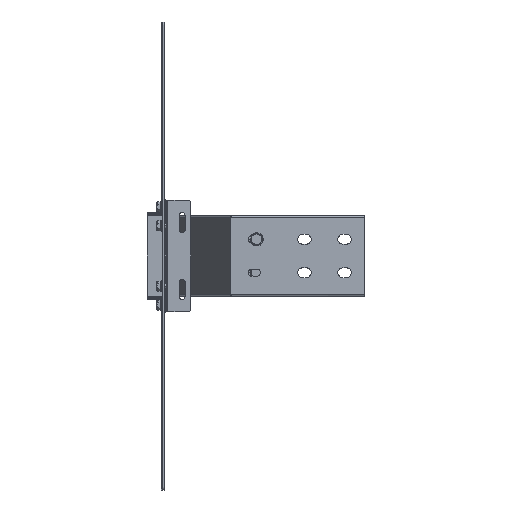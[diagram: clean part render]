
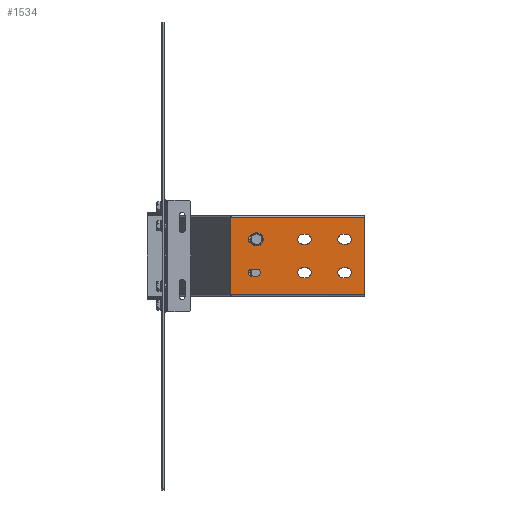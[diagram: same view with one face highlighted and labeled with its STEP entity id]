
A CAD part, front view. The second image highlights one B-rep face of the part: STEP entity #1534.
In plain terms, the highlighted planar face has unit normal (0, -1, 0).
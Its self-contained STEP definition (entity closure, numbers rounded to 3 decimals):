
#1290=AXIS2_PLACEMENT_3D('Circle Axis2P3D',#1288,#1289,$) ;
#1310=AXIS2_PLACEMENT_3D('Plane Axis2P3D',#1307,#1308,#1309) ;
#1348=AXIS2_PLACEMENT_3D('Circle Axis2P3D',#1346,#1347,$) ;
#1366=AXIS2_PLACEMENT_3D('Circle Axis2P3D',#1364,#1365,$) ;
#1382=AXIS2_PLACEMENT_3D('Circle Axis2P3D',#1380,#1381,$) ;
#1400=AXIS2_PLACEMENT_3D('Circle Axis2P3D',#1398,#1399,$) ;
#1416=AXIS2_PLACEMENT_3D('Circle Axis2P3D',#1414,#1415,$) ;
#1443=AXIS2_PLACEMENT_3D('Circle Axis2P3D',#1441,#1442,$) ;
#1457=AXIS2_PLACEMENT_3D('Circle Axis2P3D',#1455,#1456,$) ;
#1468=AXIS2_PLACEMENT_3D('Circle Axis2P3D',#1466,#1467,$) ;
#1484=AXIS2_PLACEMENT_3D('Circle Axis2P3D',#1482,#1483,$) ;
#1502=AXIS2_PLACEMENT_3D('Circle Axis2P3D',#1500,#1501,$) ;
#1518=AXIS2_PLACEMENT_3D('Circle Axis2P3D',#1516,#1517,$) ;
#1254=CARTESIAN_POINT('Vertex',(212.5,-216.75,32.5)) ;
#1257=CARTESIAN_POINT('Line Origine',(210.,-216.75,32.5)) ;
#1261=CARTESIAN_POINT('Vertex',(207.5,-216.75,32.5)) ;
#1288=CARTESIAN_POINT('Axis2P3D Location',(207.5,-216.75,25.)) ;
#1292=CARTESIAN_POINT('Vertex',(207.5,-216.75,17.5)) ;
#1307=CARTESIAN_POINT('Axis2P3D Location',(300.,-216.75,-58.25)) ;
#1312=CARTESIAN_POINT('Line Origine',(199.425,-216.75,-58.25)) ;
#1316=CARTESIAN_POINT('Vertex',(300.,-216.75,-58.25)) ;
#1318=CARTESIAN_POINT('Vertex',(98.849,-216.75,-58.25)) ;
#1321=CARTESIAN_POINT('Line Origine',(300.,-216.75,0.)) ;
#1325=CARTESIAN_POINT('Vertex',(300.,-216.75,58.25)) ;
#1328=CARTESIAN_POINT('Line Origine',(199.425,-216.75,58.25)) ;
#1332=CARTESIAN_POINT('Vertex',(98.849,-216.75,58.25)) ;
#1335=CARTESIAN_POINT('Line Origine',(98.849,-216.75,0.)) ;
#1346=CARTESIAN_POINT('Axis2P3D Location',(212.5,-216.75,25.)) ;
#1350=CARTESIAN_POINT('Vertex',(212.5,-216.75,17.5)) ;
#1353=CARTESIAN_POINT('Line Origine',(210.,-216.75,17.5)) ;
#1364=CARTESIAN_POINT('Axis2P3D Location',(272.5,-216.75,25.)) ;
#1368=CARTESIAN_POINT('Vertex',(272.5,-216.75,17.5)) ;
#1370=CARTESIAN_POINT('Vertex',(272.5,-216.75,32.5)) ;
#1373=CARTESIAN_POINT('Line Origine',(270.,-216.75,17.5)) ;
#1377=CARTESIAN_POINT('Vertex',(267.5,-216.75,17.5)) ;
#1380=CARTESIAN_POINT('Axis2P3D Location',(267.5,-216.75,25.)) ;
#1384=CARTESIAN_POINT('Vertex',(267.5,-216.75,32.5)) ;
#1387=CARTESIAN_POINT('Line Origine',(270.,-216.75,32.5)) ;
#1398=CARTESIAN_POINT('Axis2P3D Location',(207.5,-216.75,-25.)) ;
#1402=CARTESIAN_POINT('Vertex',(207.5,-216.75,-17.5)) ;
#1404=CARTESIAN_POINT('Vertex',(207.5,-216.75,-32.5)) ;
#1407=CARTESIAN_POINT('Line Origine',(210.,-216.75,-17.5)) ;
#1411=CARTESIAN_POINT('Vertex',(212.5,-216.75,-17.5)) ;
#1414=CARTESIAN_POINT('Axis2P3D Location',(212.5,-216.75,-25.)) ;
#1418=CARTESIAN_POINT('Vertex',(212.5,-216.75,-32.5)) ;
#1421=CARTESIAN_POINT('Line Origine',(210.,-216.75,-32.5)) ;
#1432=CARTESIAN_POINT('Line Origine',(270.,-216.75,-17.5)) ;
#1436=CARTESIAN_POINT('Vertex',(272.5,-216.75,-17.5)) ;
#1438=CARTESIAN_POINT('Vertex',(267.5,-216.75,-17.5)) ;
#1441=CARTESIAN_POINT('Axis2P3D Location',(272.5,-216.75,-25.)) ;
#1445=CARTESIAN_POINT('Vertex',(272.5,-216.75,-32.5)) ;
#1448=CARTESIAN_POINT('Line Origine',(270.,-216.75,-32.5)) ;
#1452=CARTESIAN_POINT('Vertex',(267.5,-216.75,-32.5)) ;
#1455=CARTESIAN_POINT('Axis2P3D Location',(267.5,-216.75,-25.)) ;
#1466=CARTESIAN_POINT('Axis2P3D Location',(138.5,-216.75,25.)) ;
#1470=CARTESIAN_POINT('Vertex',(138.5,-216.75,19.5)) ;
#1472=CARTESIAN_POINT('Vertex',(138.5,-216.75,30.5)) ;
#1475=CARTESIAN_POINT('Line Origine',(135.,-216.75,19.5)) ;
#1479=CARTESIAN_POINT('Vertex',(131.5,-216.75,19.5)) ;
#1482=CARTESIAN_POINT('Axis2P3D Location',(131.5,-216.75,25.)) ;
#1486=CARTESIAN_POINT('Vertex',(131.5,-216.75,30.5)) ;
#1489=CARTESIAN_POINT('Line Origine',(135.,-216.75,30.5)) ;
#1500=CARTESIAN_POINT('Axis2P3D Location',(131.5,-216.75,-25.)) ;
#1504=CARTESIAN_POINT('Vertex',(131.5,-216.75,-19.5)) ;
#1506=CARTESIAN_POINT('Vertex',(131.5,-216.75,-30.5)) ;
#1509=CARTESIAN_POINT('Line Origine',(135.,-216.75,-19.5)) ;
#1513=CARTESIAN_POINT('Vertex',(138.5,-216.75,-19.5)) ;
#1516=CARTESIAN_POINT('Axis2P3D Location',(138.5,-216.75,-25.)) ;
#1520=CARTESIAN_POINT('Vertex',(138.5,-216.75,-30.5)) ;
#1523=CARTESIAN_POINT('Line Origine',(135.,-216.75,-30.5)) ;
#1258=DIRECTION('Vector Direction',(1.,0.,0.)) ;
#1289=DIRECTION('Axis2P3D Direction',(0.,-1.,0.)) ;
#1308=DIRECTION('Axis2P3D Direction',(0.,-1.,0.)) ;
#1309=DIRECTION('Axis2P3D XDirection',(0.,0.,1.)) ;
#1313=DIRECTION('Vector Direction',(-1.,0.,0.)) ;
#1322=DIRECTION('Vector Direction',(0.,0.,1.)) ;
#1329=DIRECTION('Vector Direction',(-1.,0.,0.)) ;
#1336=DIRECTION('Vector Direction',(0.,0.,1.)) ;
#1347=DIRECTION('Axis2P3D Direction',(0.,-1.,0.)) ;
#1354=DIRECTION('Vector Direction',(-1.,0.,0.)) ;
#1365=DIRECTION('Axis2P3D Direction',(0.,-1.,0.)) ;
#1374=DIRECTION('Vector Direction',(1.,0.,0.)) ;
#1381=DIRECTION('Axis2P3D Direction',(0.,-1.,0.)) ;
#1388=DIRECTION('Vector Direction',(-1.,0.,0.)) ;
#1399=DIRECTION('Axis2P3D Direction',(0.,-1.,0.)) ;
#1408=DIRECTION('Vector Direction',(-1.,0.,0.)) ;
#1415=DIRECTION('Axis2P3D Direction',(0.,-1.,0.)) ;
#1422=DIRECTION('Vector Direction',(1.,0.,0.)) ;
#1433=DIRECTION('Vector Direction',(1.,0.,0.)) ;
#1442=DIRECTION('Axis2P3D Direction',(0.,-1.,0.)) ;
#1449=DIRECTION('Vector Direction',(-1.,0.,0.)) ;
#1456=DIRECTION('Axis2P3D Direction',(0.,-1.,0.)) ;
#1467=DIRECTION('Axis2P3D Direction',(0.,-1.,0.)) ;
#1476=DIRECTION('Vector Direction',(-1.,0.,0.)) ;
#1483=DIRECTION('Axis2P3D Direction',(0.,-1.,0.)) ;
#1490=DIRECTION('Vector Direction',(1.,0.,0.)) ;
#1501=DIRECTION('Axis2P3D Direction',(0.,-1.,0.)) ;
#1510=DIRECTION('Vector Direction',(-1.,0.,0.)) ;
#1517=DIRECTION('Axis2P3D Direction',(0.,-1.,0.)) ;
#1524=DIRECTION('Vector Direction',(1.,0.,0.)) ;
#1259=VECTOR('Line Direction',#1258,1.) ;
#1314=VECTOR('Line Direction',#1313,1.) ;
#1323=VECTOR('Line Direction',#1322,1.) ;
#1330=VECTOR('Line Direction',#1329,1.) ;
#1337=VECTOR('Line Direction',#1336,1.) ;
#1355=VECTOR('Line Direction',#1354,1.) ;
#1375=VECTOR('Line Direction',#1374,1.) ;
#1389=VECTOR('Line Direction',#1388,1.) ;
#1409=VECTOR('Line Direction',#1408,1.) ;
#1423=VECTOR('Line Direction',#1422,1.) ;
#1434=VECTOR('Line Direction',#1433,1.) ;
#1450=VECTOR('Line Direction',#1449,1.) ;
#1477=VECTOR('Line Direction',#1476,1.) ;
#1491=VECTOR('Line Direction',#1490,1.) ;
#1511=VECTOR('Line Direction',#1510,1.) ;
#1525=VECTOR('Line Direction',#1524,1.) ;
#1341=ORIENTED_EDGE('',*,*,#1320,.F.) ;
#1342=ORIENTED_EDGE('',*,*,#1327,.F.) ;
#1343=ORIENTED_EDGE('',*,*,#1334,.T.) ;
#1344=ORIENTED_EDGE('',*,*,#1339,.F.) ;
#1359=ORIENTED_EDGE('',*,*,#1352,.F.) ;
#1360=ORIENTED_EDGE('',*,*,#1357,.F.) ;
#1361=ORIENTED_EDGE('',*,*,#1294,.F.) ;
#1362=ORIENTED_EDGE('',*,*,#1263,.F.) ;
#1393=ORIENTED_EDGE('',*,*,#1372,.F.) ;
#1394=ORIENTED_EDGE('',*,*,#1379,.F.) ;
#1395=ORIENTED_EDGE('',*,*,#1386,.F.) ;
#1396=ORIENTED_EDGE('',*,*,#1391,.F.) ;
#1427=ORIENTED_EDGE('',*,*,#1406,.F.) ;
#1428=ORIENTED_EDGE('',*,*,#1413,.F.) ;
#1429=ORIENTED_EDGE('',*,*,#1420,.F.) ;
#1430=ORIENTED_EDGE('',*,*,#1425,.F.) ;
#1461=ORIENTED_EDGE('',*,*,#1440,.F.) ;
#1462=ORIENTED_EDGE('',*,*,#1447,.F.) ;
#1463=ORIENTED_EDGE('',*,*,#1454,.F.) ;
#1464=ORIENTED_EDGE('',*,*,#1459,.F.) ;
#1495=ORIENTED_EDGE('',*,*,#1474,.F.) ;
#1496=ORIENTED_EDGE('',*,*,#1481,.F.) ;
#1497=ORIENTED_EDGE('',*,*,#1488,.F.) ;
#1498=ORIENTED_EDGE('',*,*,#1493,.F.) ;
#1529=ORIENTED_EDGE('',*,*,#1508,.F.) ;
#1530=ORIENTED_EDGE('',*,*,#1515,.F.) ;
#1531=ORIENTED_EDGE('',*,*,#1522,.F.) ;
#1532=ORIENTED_EDGE('',*,*,#1527,.F.) ;
#1363=FACE_BOUND('',#1358,.T.) ;
#1397=FACE_BOUND('',#1392,.T.) ;
#1431=FACE_BOUND('',#1426,.T.) ;
#1465=FACE_BOUND('',#1460,.T.) ;
#1499=FACE_BOUND('',#1494,.T.) ;
#1533=FACE_BOUND('',#1528,.T.) ;
#1534=ADVANCED_FACE('N',(#1345,#1363,#1397,#1431,#1465,#1499,#1533),#1311,.T.) ;
#1291=CIRCLE('generated circle',#1290,7.5) ;
#1349=CIRCLE('generated circle',#1348,7.5) ;
#1367=CIRCLE('generated circle',#1366,7.5) ;
#1383=CIRCLE('generated circle',#1382,7.5) ;
#1401=CIRCLE('generated circle',#1400,7.5) ;
#1417=CIRCLE('generated circle',#1416,7.5) ;
#1444=CIRCLE('generated circle',#1443,7.5) ;
#1458=CIRCLE('generated circle',#1457,7.5) ;
#1469=CIRCLE('generated circle',#1468,5.5) ;
#1485=CIRCLE('generated circle',#1484,5.5) ;
#1503=CIRCLE('generated circle',#1502,5.5) ;
#1519=CIRCLE('generated circle',#1518,5.5) ;
#1263=EDGE_CURVE('',#1255,#1262,#1260,.F.) ;
#1294=EDGE_CURVE('',#1262,#1293,#1291,.T.) ;
#1320=EDGE_CURVE('',#1317,#1319,#1315,.T.) ;
#1327=EDGE_CURVE('',#1326,#1317,#1324,.F.) ;
#1334=EDGE_CURVE('',#1326,#1333,#1331,.T.) ;
#1339=EDGE_CURVE('',#1319,#1333,#1338,.T.) ;
#1352=EDGE_CURVE('',#1351,#1255,#1349,.T.) ;
#1357=EDGE_CURVE('',#1293,#1351,#1356,.F.) ;
#1372=EDGE_CURVE('',#1369,#1371,#1367,.T.) ;
#1379=EDGE_CURVE('',#1378,#1369,#1376,.T.) ;
#1386=EDGE_CURVE('',#1385,#1378,#1383,.T.) ;
#1391=EDGE_CURVE('',#1371,#1385,#1390,.T.) ;
#1406=EDGE_CURVE('',#1403,#1405,#1401,.T.) ;
#1413=EDGE_CURVE('',#1412,#1403,#1410,.T.) ;
#1420=EDGE_CURVE('',#1419,#1412,#1417,.T.) ;
#1425=EDGE_CURVE('',#1405,#1419,#1424,.T.) ;
#1440=EDGE_CURVE('',#1437,#1439,#1435,.F.) ;
#1447=EDGE_CURVE('',#1446,#1437,#1444,.T.) ;
#1454=EDGE_CURVE('',#1453,#1446,#1451,.F.) ;
#1459=EDGE_CURVE('',#1439,#1453,#1458,.T.) ;
#1474=EDGE_CURVE('',#1471,#1473,#1469,.T.) ;
#1481=EDGE_CURVE('',#1480,#1471,#1478,.F.) ;
#1488=EDGE_CURVE('',#1487,#1480,#1485,.T.) ;
#1493=EDGE_CURVE('',#1473,#1487,#1492,.F.) ;
#1508=EDGE_CURVE('',#1505,#1507,#1503,.T.) ;
#1515=EDGE_CURVE('',#1514,#1505,#1512,.T.) ;
#1522=EDGE_CURVE('',#1521,#1514,#1519,.T.) ;
#1527=EDGE_CURVE('',#1507,#1521,#1526,.T.) ;
#1340=EDGE_LOOP('',(#1341,#1342,#1343,#1344)) ;
#1358=EDGE_LOOP('',(#1359,#1360,#1361,#1362)) ;
#1392=EDGE_LOOP('',(#1393,#1394,#1395,#1396)) ;
#1426=EDGE_LOOP('',(#1427,#1428,#1429,#1430)) ;
#1460=EDGE_LOOP('',(#1461,#1462,#1463,#1464)) ;
#1494=EDGE_LOOP('',(#1495,#1496,#1497,#1498)) ;
#1528=EDGE_LOOP('',(#1529,#1530,#1531,#1532)) ;
#1345=FACE_OUTER_BOUND('',#1340,.T.) ;
#1260=LINE('Line',#1257,#1259) ;
#1315=LINE('Line',#1312,#1314) ;
#1324=LINE('Line',#1321,#1323) ;
#1331=LINE('Line',#1328,#1330) ;
#1338=LINE('Line',#1335,#1337) ;
#1356=LINE('Line',#1353,#1355) ;
#1376=LINE('Line',#1373,#1375) ;
#1390=LINE('Line',#1387,#1389) ;
#1410=LINE('Line',#1407,#1409) ;
#1424=LINE('Line',#1421,#1423) ;
#1435=LINE('Line',#1432,#1434) ;
#1451=LINE('Line',#1448,#1450) ;
#1478=LINE('Line',#1475,#1477) ;
#1492=LINE('Line',#1489,#1491) ;
#1512=LINE('Line',#1509,#1511) ;
#1526=LINE('Line',#1523,#1525) ;
#1311=PLANE('',#1310) ;
#1255=VERTEX_POINT('',#1254) ;
#1262=VERTEX_POINT('',#1261) ;
#1293=VERTEX_POINT('',#1292) ;
#1317=VERTEX_POINT('',#1316) ;
#1319=VERTEX_POINT('',#1318) ;
#1326=VERTEX_POINT('',#1325) ;
#1333=VERTEX_POINT('',#1332) ;
#1351=VERTEX_POINT('',#1350) ;
#1369=VERTEX_POINT('',#1368) ;
#1371=VERTEX_POINT('',#1370) ;
#1378=VERTEX_POINT('',#1377) ;
#1385=VERTEX_POINT('',#1384) ;
#1403=VERTEX_POINT('',#1402) ;
#1405=VERTEX_POINT('',#1404) ;
#1412=VERTEX_POINT('',#1411) ;
#1419=VERTEX_POINT('',#1418) ;
#1437=VERTEX_POINT('',#1436) ;
#1439=VERTEX_POINT('',#1438) ;
#1446=VERTEX_POINT('',#1445) ;
#1453=VERTEX_POINT('',#1452) ;
#1471=VERTEX_POINT('',#1470) ;
#1473=VERTEX_POINT('',#1472) ;
#1480=VERTEX_POINT('',#1479) ;
#1487=VERTEX_POINT('',#1486) ;
#1505=VERTEX_POINT('',#1504) ;
#1507=VERTEX_POINT('',#1506) ;
#1514=VERTEX_POINT('',#1513) ;
#1521=VERTEX_POINT('',#1520) ;
